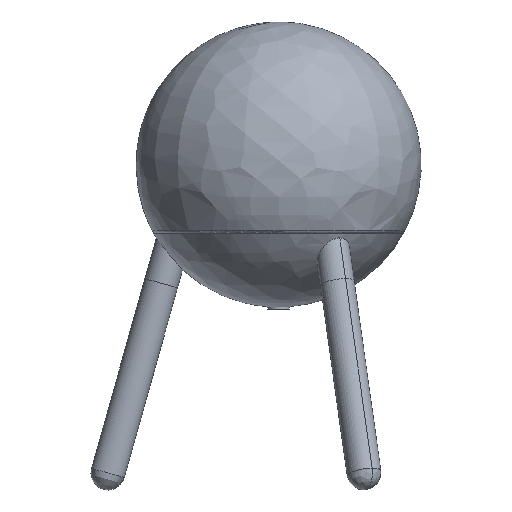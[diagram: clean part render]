
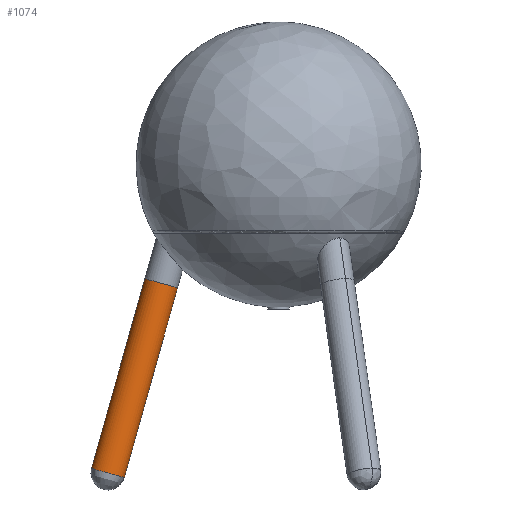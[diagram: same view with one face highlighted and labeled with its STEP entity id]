
A CAD part, left-side view. The second image highlights one B-rep face of the part: STEP entity #1074.
In plain terms, the highlighted cylindrical face has radius 11 mm (diameter 22 mm), a partial arc.
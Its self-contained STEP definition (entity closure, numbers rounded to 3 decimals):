
#110=LINE('',#4172,#162);
#111=LINE('',#4173,#163);
#162=VECTOR('',#1415,304.8);
#163=VECTOR('',#1416,304.8);
#207=CIRCLE('',#1186,11.);
#235=CYLINDRICAL_SURFACE('',#1185,11.);
#299=FACE_OUTER_BOUND('',#383,.T.);
#383=EDGE_LOOP('',(#909,#910,#911,#912));
#438=B_SPLINE_CURVE_WITH_KNOTS('',3,(#4162,#4163,#4164,#4165,#4166,#4167),
 .UNSPECIFIED.,.F.,.F.,(4,1,1,4),(0.,0.333,0.667,
1.),.UNSPECIFIED.);
#519=VERTEX_POINT('',#4035);
#520=VERTEX_POINT('',#4036);
#522=VERTEX_POINT('',#4169);
#523=VERTEX_POINT('',#4170);
#651=EDGE_CURVE('',#520,#519,#438,.T.);
#653=EDGE_CURVE('',#519,#522,#110,.T.);
#654=EDGE_CURVE('',#523,#520,#111,.T.);
#655=EDGE_CURVE('',#523,#522,#207,.T.);
#909=ORIENTED_EDGE('',*,*,#655,.F.);
#910=ORIENTED_EDGE('',*,*,#654,.T.);
#911=ORIENTED_EDGE('',*,*,#651,.T.);
#912=ORIENTED_EDGE('',*,*,#653,.T.);
#1074=ADVANCED_FACE('',(#299),#235,.T.);
#1185=AXIS2_PLACEMENT_3D('',#4174,#1417,#1418);
#1186=AXIS2_PLACEMENT_3D('',#4175,#1419,#1420);
#1415=DIRECTION('',(0.,-0.271,0.963));
#1416=DIRECTION('',(0.,0.271,-0.963));
#1417=DIRECTION('center_axis',(0.,-0.271,0.963));
#1418=DIRECTION('ref_axis',(0.,0.963,0.271));
#1419=DIRECTION('center_axis',(0.,-0.271,0.963));
#1420=DIRECTION('ref_axis',(0.,0.963,0.271));
#4035=CARTESIAN_POINT('',(0.,100.248,8.092));
#4036=CARTESIAN_POINT('',(0.,121.427,14.045));
#4162=CARTESIAN_POINT('Ctrl Pts',(0.,121.427,14.045));
#4163=CARTESIAN_POINT('Ctrl Pts',(-4.763,121.721,14.128));
#4164=CARTESIAN_POINT('Ctrl Pts',(-11.114,117.015,12.805));
#4165=CARTESIAN_POINT('Ctrl Pts',(-11.114,104.66,9.332));
#4166=CARTESIAN_POINT('Ctrl Pts',(-4.763,99.954,8.009));
#4167=CARTESIAN_POINT('Ctrl Pts',(0.,100.248,
8.092));
#4169=CARTESIAN_POINT('',(0.,65.62,131.285));
#4170=CARTESIAN_POINT('',(0.,86.799,137.239));
#4172=CARTESIAN_POINT('',(0.,100.248,8.092));
#4173=CARTESIAN_POINT('',(0.,86.799,137.239));
#4174=CARTESIAN_POINT('Origin',(0.,62.319,
183.68));
#4175=CARTESIAN_POINT('Origin',(0.,76.209,134.262));
